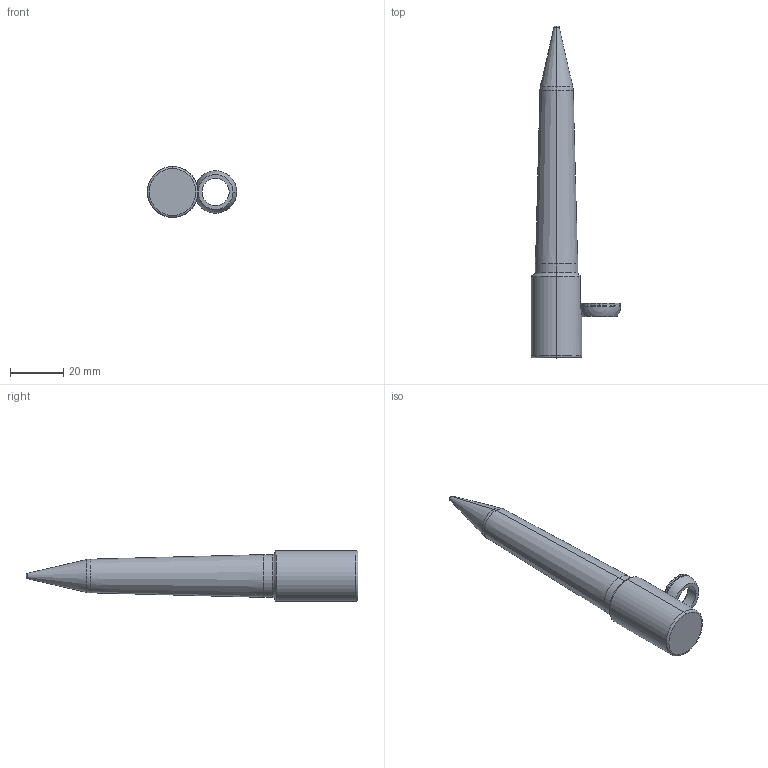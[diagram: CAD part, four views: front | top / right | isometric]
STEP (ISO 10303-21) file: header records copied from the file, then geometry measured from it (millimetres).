
FILE_DESCRIPTION (( 'STEP AP214' ), '1' );
FILE_NAME ('PA-T-16mm-3.2mm-65mm-3-A-F1.STEP', '2019-05-08T18:08:56', ( '' ), ( '' ), 'SwSTEP 2.0', 'SolidWorks 2017', '' );
FILE_SCHEMA (( 'AUTOMOTIVE_DESIGN' ));
Length unit declared in the file: inch
Products named in the file (3): PA-T-16mm-3.2mm-65mm-3-A-F1; SLPilot-PA-T-M_PA-T-16-3.2-65-3-A-F1; SLRadiusWasher_RadiusWasher-M
Assembly tree (2 placements, depth 2):
  PA-T-16mm-3.2mm-65mm-3-A-F1
    SLRadiusWasher_RadiusWasher-M
    SLPilot-PA-T-M_PA-T-16-3.2-65-3-A-F1
Bounding box: 33.54 x 124.18 x 19 mm (x, y, z)
Volume: 21706.3 mm3; surface area: 6429.4 mm2
Topology: 2 solids, 2 shells, 41 faces, 89 edges, 52 vertices
Faces by surface type: torus 15, cylinder 11, cone 6, plane 5, sphere 4
Entity records: 1316 total; most frequent: CARTESIAN_POINT 252, DIRECTION 242, ORIENTED_EDGE 178, AXIS2_PLACEMENT_3D 112, EDGE_CURVE 89, CIRCLE 66, VERTEX_POINT 52, EDGE_LOOP 43
